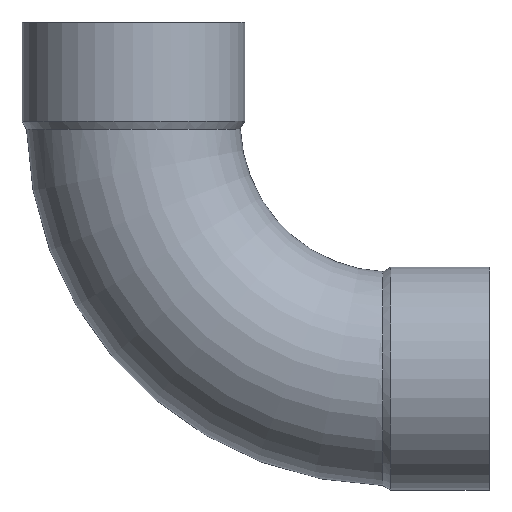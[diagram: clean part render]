
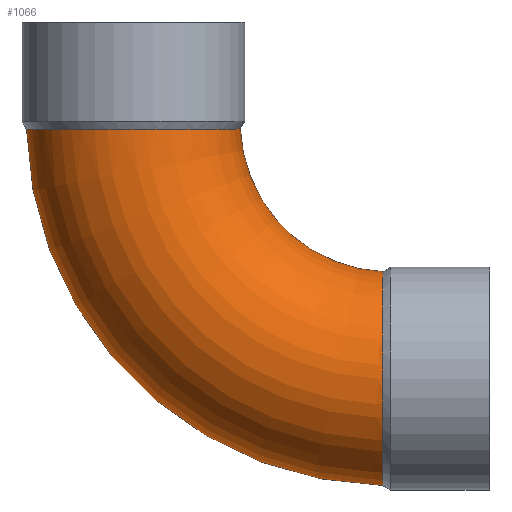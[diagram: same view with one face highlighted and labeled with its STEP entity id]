
A CAD part, front view. The second image highlights one B-rep face of the part: STEP entity #1066.
In plain terms, the highlighted toroidal (fillet/blend) face has major radius 91.32 mm and minor radius 38.05 mm.
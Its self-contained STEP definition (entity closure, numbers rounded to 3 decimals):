
#49=CARTESIAN_POINT('',(-107.31,0.,-2.564));
#50=VERTEX_POINT('',#49);
#51=CARTESIAN_POINT('',(19.471,0.,-129.345));
#52=VERTEX_POINT('',#51);
#53=CARTESIAN_POINT('',(22.035,0.,0.0));
#54=DIRECTION('',(0.0,-1.0,0.0));
#55=DIRECTION('',(0.0,0.0,-1.0));
#56=AXIS2_PLACEMENT_3D('',#53,#54,#55);
#57=CIRCLE('',#56,129.37);
#58=EDGE_CURVE('',#50,#52,#57,.T.);
#60=CARTESIAN_POINT('',(-31.18,0.,-2.424));
#61=VERTEX_POINT('',#60);
#85=CARTESIAN_POINT('',(19.611,0.,-53.215));
#86=VERTEX_POINT('',#85);
#87=CARTESIAN_POINT('',(22.035,0.,0.0));
#88=DIRECTION('',(0.0,1.0,0.0));
#89=DIRECTION('',(0.0,0.0,-1.0));
#90=AXIS2_PLACEMENT_3D('',#87,#88,#89);
#91=CIRCLE('',#90,53.27);
#92=EDGE_CURVE('',#86,#61,#91,.T.);
#228=CARTESIAN_POINT('',(-31.18,0.,-2.424));
#229=CARTESIAN_POINT('',(-31.18,-0.331,-2.424));
#230=CARTESIAN_POINT('',(-31.184,-0.662,-2.424));
#231=CARTESIAN_POINT('',(-31.322,-5.944,-2.425));
#232=CARTESIAN_POINT('',(-32.418,-10.823,-2.429));
#233=CARTESIAN_POINT('',(-36.42,-19.889,-2.444));
#234=CARTESIAN_POINT('',(-39.289,-23.99,-2.454));
#235=CARTESIAN_POINT('',(-46.437,-30.861,-2.474));
#236=CARTESIAN_POINT('',(-50.65,-33.566,-2.485));
#237=CARTESIAN_POINT('',(-59.873,-37.209,-2.504));
#238=CARTESIAN_POINT('',(-64.796,-38.112,-2.513));
#239=CARTESIAN_POINT('',(-74.71,-37.981,-2.529));
#240=CARTESIAN_POINT('',(-79.606,-36.948,-2.535));
#241=CARTESIAN_POINT('',(-88.725,-33.065,-2.546));
#242=CARTESIAN_POINT('',(-92.862,-30.252,-2.55));
#243=CARTESIAN_POINT('',(-99.822,-23.199,-2.557));
#244=CARTESIAN_POINT('',(-102.58,-19.027,-2.56));
#245=CARTESIAN_POINT('',(-106.342,-9.86,-2.563));
#246=CARTESIAN_POINT('',(-107.31,-4.954,-2.564));
#247=CARTESIAN_POINT('',(-107.31,0.,-2.564));
#248=B_SPLINE_CURVE_WITH_KNOTS('',3,(#228,#229,#230,#231,#232,#233,#234,#235,#236,#237,#238,#239,#240,#241,#242,#243,#244,#245,#246,#247),.UNSPECIFIED.,.F.,.U.,(4,2,2,2,2,2,2,2,2,4),(-11.993,-11.894,-10.408,-8.921,-7.433,-5.946,-4.459,-2.972,-1.486,0.0),.UNSPECIFIED.);
#249=EDGE_CURVE('',#61,#50,#248,.T.);
#1033=CARTESIAN_POINT('',(22.035,0.,0.0));
#1034=DIRECTION('',(0.0,-1.0,0.0));
#1035=DIRECTION('',(0.0,0.0,-1.0));
#1036=AXIS2_PLACEMENT_3D('',#1033,#1034,#1035);
#1037=TOROIDAL_SURFACE('',#1036,91.32,38.05);
#1038=ORIENTED_EDGE('',*,*,#58,.T.);
#1039=CARTESIAN_POINT('',(19.471,0.,-129.345));
#1040=CARTESIAN_POINT('',(19.471,-2.805,-129.345));
#1041=CARTESIAN_POINT('',(19.471,-5.601,-129.034));
#1042=CARTESIAN_POINT('',(19.472,-11.075,-127.805));
#1043=CARTESIAN_POINT('',(19.473,-13.735,-126.889));
#1044=CARTESIAN_POINT('',(19.476,-20.75,-123.571));
#1045=CARTESIAN_POINT('',(19.479,-24.772,-120.597));
#1046=CARTESIAN_POINT('',(19.486,-31.45,-113.274));
#1047=CARTESIAN_POINT('',(19.491,-34.043,-108.994));
#1048=CARTESIAN_POINT('',(19.503,-37.442,-99.681));
#1049=CARTESIAN_POINT('',(19.509,-38.216,-94.736));
#1050=CARTESIAN_POINT('',(19.526,-37.825,-84.827));
#1051=CARTESIAN_POINT('',(19.535,-36.663,-79.957));
#1052=CARTESIAN_POINT('',(19.555,-32.539,-70.94));
#1053=CARTESIAN_POINT('',(19.565,-29.616,-66.877));
#1054=CARTESIAN_POINT('',(19.585,-22.382,-60.103));
#1055=CARTESIAN_POINT('',(19.595,-18.14,-57.456));
#1056=CARTESIAN_POINT('',(19.607,-9.192,-54.055));
#1057=CARTESIAN_POINT('',(19.611,-4.614,-53.215));
#1058=CARTESIAN_POINT('',(19.611,0.,-53.215));
#1059=B_SPLINE_CURVE_WITH_KNOTS('',3,(#1039,#1040,#1041,#1042,#1043,#1044,#1045,#1046,#1047,#1048,#1049,#1050,#1051,#1052,#1053,#1054,#1055,#1056,#1057,#1058),.UNSPECIFIED.,.F.,.U.,(4,2,2,2,2,2,2,2,2,4),(-23.984,-23.142,-22.301,-20.814,-19.327,-17.84,-16.352,-14.865,-13.379,-11.993),.UNSPECIFIED.);
#1060=EDGE_CURVE('',#52,#86,#1059,.T.);
#1061=ORIENTED_EDGE('',*,*,#1060,.T.);
#1062=ORIENTED_EDGE('',*,*,#92,.T.);
#1063=ORIENTED_EDGE('',*,*,#249,.T.);
#1064=EDGE_LOOP('',(#1038,#1061,#1062,#1063));
#1065=FACE_OUTER_BOUND('',#1064,.T.);
#1066=ADVANCED_FACE('',(#1065),#1037,.T.);
